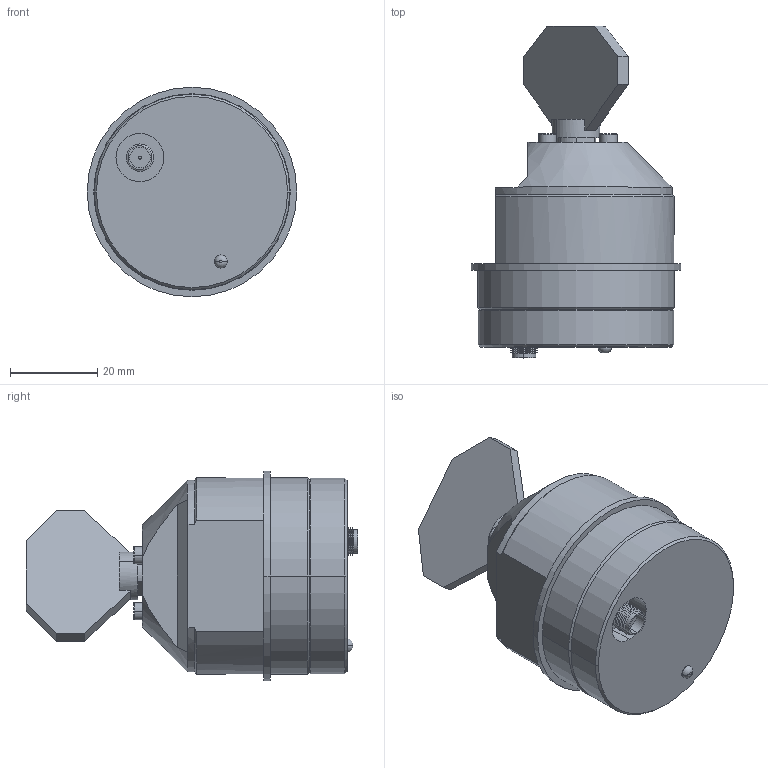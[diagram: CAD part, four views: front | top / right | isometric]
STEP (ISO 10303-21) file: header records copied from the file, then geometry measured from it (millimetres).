
FILE_DESCRIPTION (( 'STEP AP214' ), '1' );
FILE_NAME ('RTAX_A20.STEP', '2019-06-06T08:05:13', ( '' ), ( '' ), 'SwSTEP 2.0', 'SolidWorks 2011', '' );
FILE_SCHEMA (( 'AUTOMOTIVE_DESIGN' ));
Length unit declared in the file: millimetre
Products named in the file (5): socket head cap screw_iso_ISO 4762 M2 x 5 --- 5N; RTAX_A20; Scanner_Solid; A20_MirrorX; Scanner_Draw10_4
Assembly tree (5 placements, depth 2):
  RTAX_A20
    A20_MirrorX
    Scanner_Draw10_4
    Scanner_Solid
    socket head cap screw_iso_ISO 4762 M2 x 5 --- 5N  x2
Bounding box: 48 x 76.05 x 48 mm (x, y, z)
Volume: 67372.2 mm3; surface area: 12344.7 mm2
Topology: 5 solids, 5 shells, 199 faces, 441 edges, 266 vertices
Faces by surface type: plane 78, cylinder 55, cone 50, torus 16
Entity records: 5980 total; most frequent: DIRECTION 918, CARTESIAN_POINT 846, ORIENTED_EDGE 762, EDGE_CURVE 381, AXIS2_PLACEMENT_3D 369, VERTEX_POINT 233, EDGE_LOOP 192, CIRCLE 189
